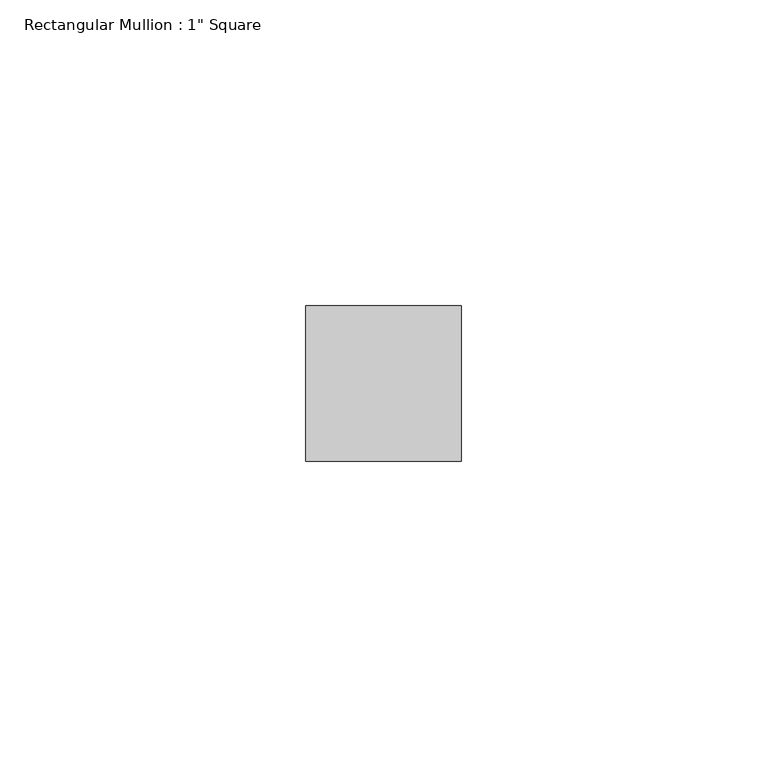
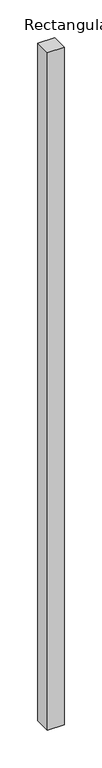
"""IFC4 building model written with IfcOpenShell, lengths in millimetres: member geometry."""

from ifc_helpers import new_model, si_unit, frame, origin, place, context, project, spatial, polyline, outline, extrude, source, transform, mapped, element, save


def member_d894d30a(model_context):
    return source(origin(), model_context, "Body", "SweptSolid", [
        extrude(outline(polyline([(12.7, 12.7), (12.7, -12.7), (-12.7, -12.7), (-12.7, 12.7), (12.7, 12.7)])), frame((0.0, 0.0, -1092.0573899), z_axis=(0.0, 0.0, 1.0), x_axis=(1.0, 0.0, 0.0)), (0.0, 0.0, 1.0), 1092.0573899),
    ])


if __name__ == "__main__":
    model = new_model("IFC4")
    model_context = context("Model", 3, world=origin())
    ifc_project = project(units=[si_unit("LENGTHUNIT", "METRE", prefix="MILLI")], contexts=[model_context])
    site = spatial("IfcSite", under=ifc_project)
    building = spatial("IfcBuilding", under=site)
    placement = place(None, origin())
    member_shape = member_d894d30a(model_context)
    element("IfcMember", 1, ObjectType="Rectangular Mullion : 1\" Square", at=placement, inside=building, context=model_context, shape_type="MappedRepresentation", body=[
        mapped(member_shape, transform((0.0, 0.0, 0.0), x_axis=(1.0, 0.0, 0.0), y_axis=(0.0, 1.0, 0.0), z_axis=(0.0, 0.0, 1.0))),
    ])
    save(model, "model.ifc")
